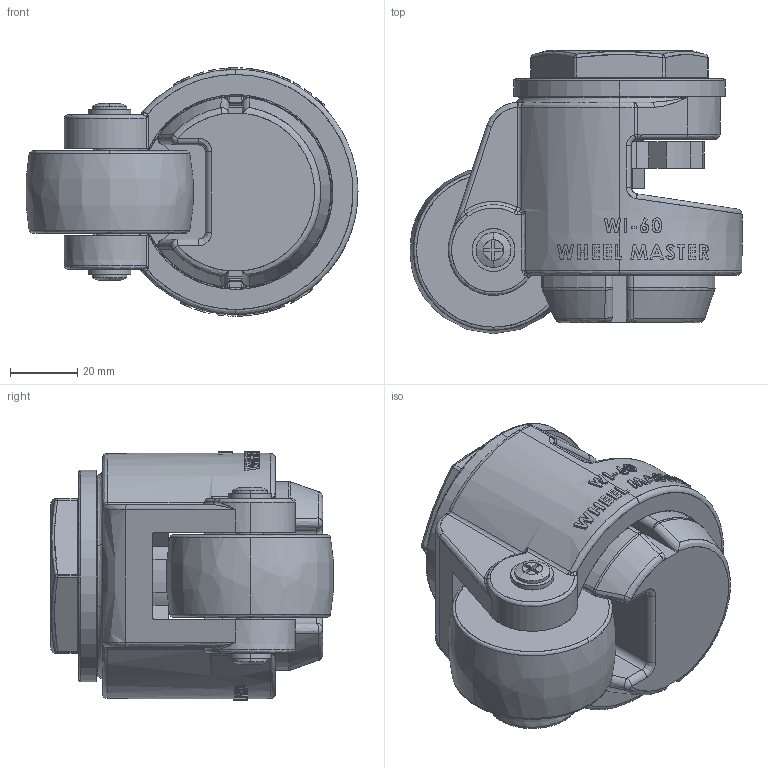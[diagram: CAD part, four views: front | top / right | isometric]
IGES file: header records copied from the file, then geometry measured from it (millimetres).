
Start section: SolidWorks IGES file using analytic representation for surfaces
Bounding box: 98.88 x 84.38 x 74 mm (x, y, z)
Surface area: 64175.2 mm2 (no closed solid volume)
Topology: 0 solids, 0 shells, 704 faces, 8434 edges, 8407 vertices
Faces by surface type: bspline 518, revolution 186
